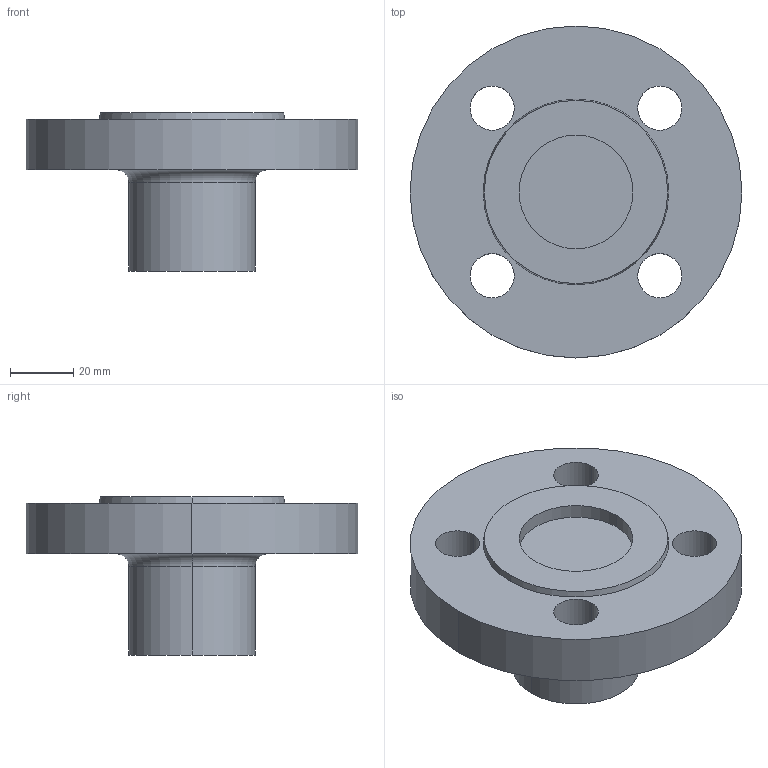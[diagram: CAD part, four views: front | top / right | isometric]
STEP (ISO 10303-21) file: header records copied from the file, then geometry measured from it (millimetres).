
FILE_DESCRIPTION (( 'STEP AP214' ), '1' );
FILE_NAME ('PN40 DN20 Type 21(i) - Type G Face.STEP', '2018-12-29T16:21:13', ( '' ), ( '' ), 'SwSTEP 2.0', 'SolidWorks 2019', '' );
FILE_SCHEMA (( 'AUTOMOTIVE_DESIGN' ));
Length unit declared in the file: millimetre
Products named in the file (1): PN40 DN20 Type 21(i) - Type G Face
Bounding box: 105 x 105 x 50 mm (x, y, z)
Volume: 170123.6 mm3; surface area: 28808.5 mm2
Topology: 1 solids, 1 shells, 23 faces, 52 edges, 34 vertices
Faces by surface type: cylinder 14, plane 5, torus 2, cone 2
Entity records: 716 total; most frequent: DIRECTION 136, CARTESIAN_POINT 110, ORIENTED_EDGE 104, AXIS2_PLACEMENT_3D 60, EDGE_CURVE 52, CIRCLE 36, VERTEX_POINT 34, EDGE_LOOP 34
